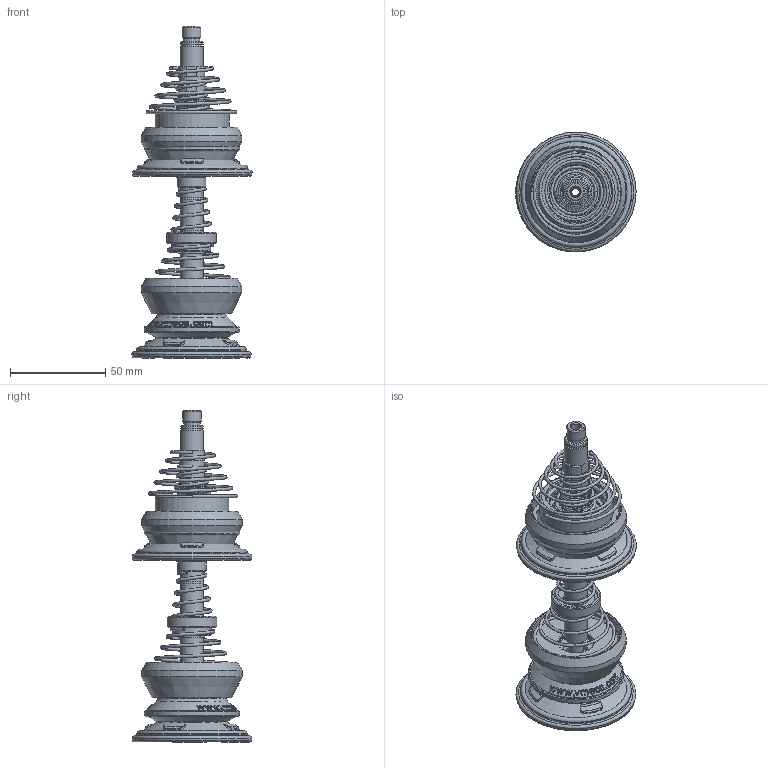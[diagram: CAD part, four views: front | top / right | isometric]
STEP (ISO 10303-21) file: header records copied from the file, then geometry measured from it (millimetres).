
FILE_DESCRIPTION( ( 'Unknown' ), '1' );
FILE_NAME( 'C:/Documents and Settings/Owner/官帕 拳搁/20141007 2D3D颇老葛澜/SMART CUPS/VBF - C Series/VBF60-BJ-PU-L20-18F.stp', 'Unknown', ( 'Unknown' ), ( 'Unknown' ), 'PSStep 10.0', 'Unknown', ' ' );
FILE_SCHEMA( ( 'AUTOMOTIVE_DESIGN { 1 0 10303 214 1 1 1 1 }' ) );
Length unit declared in the file: millimetre
Products named in the file (14): Assem1; M16-Housing; BJ03-L20-12Shaft; M16-Housing Nut; Upper Nut; BJ03-Ball; BJ03-Pad Insert; BJ03-End Cap; VBF60; BJ03-Cover; IRTW-13_12Shaft; Lower Cover-12; BJ03-Pad Spring; BJ02.03-L20-12Spring
Bounding box: 63.08 x 62.8 x 174.11 mm (x, y, z)
Volume: 111973.1 mm3; surface area: 103388.5 mm2
Topology: 29 solids, 29 shells, 1889 faces, 4639 edges, 2968 vertices
Faces by surface type: plane 708, bspline 376, cone 346, cylinder 325, torus 128, sphere 6
Full cylindrical faces by diameter (mm): 0.9 x8, 4 x2, 5 x2, 7 x2, 8 x2, 8.5 x4, 8.8 x4, 9.7 x2, 10 x4, 10.8 x2, 10.9 x6, 12 x12, 13 x2, 14 x2, 14.6 x2, 14.8 x2, 14.917 x3, 15 x2, 19 x2, 20 x2, 22 x6, 23 x4, 24.8 x6, 26 x2, 28.7 x4, 31.8 x4, 32.7 x4, 38.8 x2, 39.1 x2, 46 x2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
Entity records: 66912 total; most frequent: CARTESIAN_POINT 40430, ORIENTED_EDGE 4216, DIRECTION 3053, EDGE_CURVE 2108, VERTEX_POINT 1443, AXIS2_PLACEMENT_3D 1288, EDGE_LOOP 1183, B_SPLINE_CURVE_WITH_KNOTS 1054
